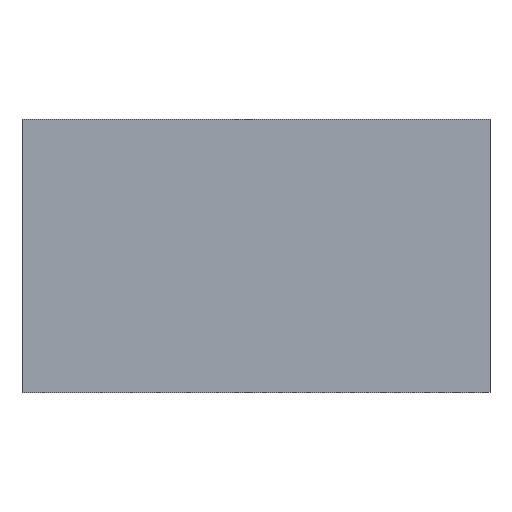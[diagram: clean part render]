
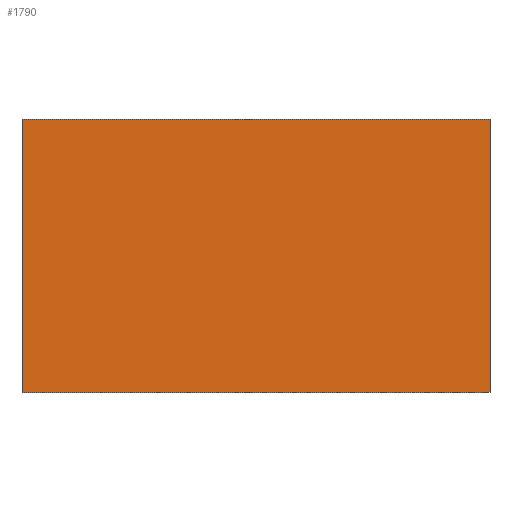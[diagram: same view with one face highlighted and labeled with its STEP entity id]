
A CAD part, front view. The second image highlights one B-rep face of the part: STEP entity #1790.
In plain terms, the highlighted planar face has unit normal (0, -1, 0).
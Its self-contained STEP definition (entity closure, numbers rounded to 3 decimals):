
#29 = DIRECTION ( 'NONE',  ( 0., 0., 1. ) ) ;
#50 = EDGE_LOOP ( 'NONE', ( #302, #273, #260, #211 ) ) ;
#211 = ORIENTED_EDGE ( 'NONE', *, *, #488, .F. ) ;
#226 = PLANE ( 'NONE',  #612 ) ;
#260 = ORIENTED_EDGE ( 'NONE', *, *, #1160, .F. ) ;
#273 = ORIENTED_EDGE ( 'NONE', *, *, #2209, .F. ) ;
#302 = ORIENTED_EDGE ( 'NONE', *, *, #1068, .F. ) ;
#420 = VERTEX_POINT ( 'NONE', #781 ) ;
#445 = VERTEX_POINT ( 'NONE', #828 ) ;
#488 = EDGE_CURVE ( 'NONE', #420, #1749, #751, .T. ) ;
#590 = LINE ( 'NONE', #2285, #714 ) ;
#604 = VECTOR ( 'NONE', #1203, 1000. ) ;
#612 = AXIS2_PLACEMENT_3D ( 'NONE', #1262, #1268, #29 ) ;
#714 = VECTOR ( 'NONE', #2220, 1000. ) ;
#751 = LINE ( 'NONE', #949, #1230 ) ;
#781 = CARTESIAN_POINT ( 'NONE',  ( 30., 0., -17.5 ) ) ;
#828 = CARTESIAN_POINT ( 'NONE',  ( 30., 0., 17.5 ) ) ;
#927 = FACE_OUTER_BOUND ( 'NONE', #50, .T. ) ;
#949 = CARTESIAN_POINT ( 'NONE',  ( -30., 0., -17.5 ) ) ;
#976 = DIRECTION ( 'NONE',  ( -1., 0., 0. ) ) ;
#1016 = CARTESIAN_POINT ( 'NONE',  ( -30., 0., 17.5 ) ) ;
#1068 = EDGE_CURVE ( 'NONE', #445, #420, #590, .T. ) ;
#1160 = EDGE_CURVE ( 'NONE', #1749, #1660, #2522, .T. ) ;
#1203 = DIRECTION ( 'NONE',  ( 1., 0., 0. ) ) ;
#1230 = VECTOR ( 'NONE', #976, 1000. ) ;
#1262 = CARTESIAN_POINT ( 'NONE',  ( 0., 0., 0. ) ) ;
#1268 = DIRECTION ( 'NONE',  ( 0., 1., 0. ) ) ;
#1660 = VERTEX_POINT ( 'NONE', #2392 ) ;
#1749 = VERTEX_POINT ( 'NONE', #2269 ) ;
#1790 = ADVANCED_FACE ( 'NONE', ( #927 ), #226, .F. ) ;
#2084 = VECTOR ( 'NONE', #2521, 1000. ) ;
#2209 = EDGE_CURVE ( 'NONE', #1660, #445, #2247, .T. ) ;
#2220 = DIRECTION ( 'NONE',  ( 0., 0., -1. ) ) ;
#2247 = LINE ( 'NONE', #1016, #604 ) ;
#2269 = CARTESIAN_POINT ( 'NONE',  ( -30., 0., -17.5 ) ) ;
#2285 = CARTESIAN_POINT ( 'NONE',  ( 30., 0., -17.5 ) ) ;
#2392 = CARTESIAN_POINT ( 'NONE',  ( -30., 0., 17.5 ) ) ;
#2412 = CARTESIAN_POINT ( 'NONE',  ( -30., 0., -17.5 ) ) ;
#2521 = DIRECTION ( 'NONE',  ( 0., 0., 1. ) ) ;
#2522 = LINE ( 'NONE', #2412, #2084 ) ;
